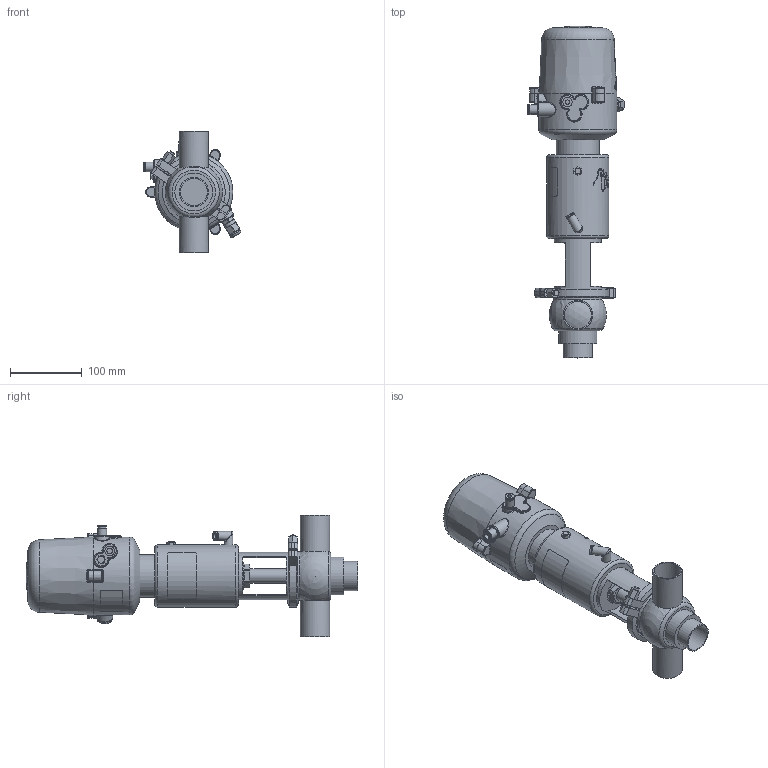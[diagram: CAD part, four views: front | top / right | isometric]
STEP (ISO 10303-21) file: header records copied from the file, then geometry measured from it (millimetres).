
FILE_DESCRIPTION (( 'STEP AP214' ), '1' );
FILE_NAME ('INNOVA N T W DIN 040 T1 AS NC & C-TOP S_10.240.16.0058.STEP', '2024-08-06T08:15:19', ( '' ), ( '' ), 'SwSTEP 2.0', 'SolidWorks 2023', '' );
FILE_SCHEMA (( 'AUTOMOTIVE_DESIGN' ));
Length unit declared in the file: millimetre
Products named in the file (7): 10.240.15.0010_DN 040; 10.426.15.0001_C-TOP S - 1 EV; INNOVA N T W DIN 040 T1 AS NC & C-TOP S_10.240.16.0058; 10.240.15.0014_T1 AS P0; 10.240.15.0003_DIN 040; 10.240.15.0017_Estàndard; 10.240.15.0001_DN 040
Assembly tree (6 placements, depth 2):
  INNOVA N T W DIN 040 T1 AS NC & C-TOP S_10.240.16.0058
    10.240.15.0003_DIN 040
    10.240.15.0010_DN 040
    10.240.15.0014_T1 AS P0
    10.240.15.0017_Estàndard
    10.426.15.0001_C-TOP S - 1 EV
    10.240.15.0001_DN 040
Bounding box: 136.88 x 464 x 170 mm (x, y, z)
Volume: 2564921.6 mm3; surface area: 237792.3 mm2
Topology: 6 solids, 6 shells, 1105 faces, 2656 edges, 1772 vertices
Faces by surface type: plane 376, cylinder 332, cone 191, bspline 160, torus 39, sphere 7
Full cylindrical faces by diameter (mm): 0.371 x17, 0.512 x16, 0.658 x16, 0.795 x16, 0.94 x15, 1.098 x15, 1.241 x13, 1.382 x13, 1.523 x11, 1.669 x10, 2.201 x1, 4 x2, 5.5 x2, 6 x2, 6.15 x1, 8 x4, 8.5 x1, 10 x1, 10.5 x1, 11 x2, 12.5 x3, 13 x2, 13.5 x2, 16 x1, 17 x3, 20 x3, 20.5 x1, 22 x2, 31 x1, 34.5 x3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
Entity records: 56840 total; most frequent: CARTESIAN_POINT 26779, ORIENTED_EDGE 4506, DIRECTION 3619, EDGE_CURVE 2253, VERTEX_POINT 1600, EDGE_LOOP 1555, AXIS2_PLACEMENT_3D 1481, FACE_OUTER_BOUND 1319
